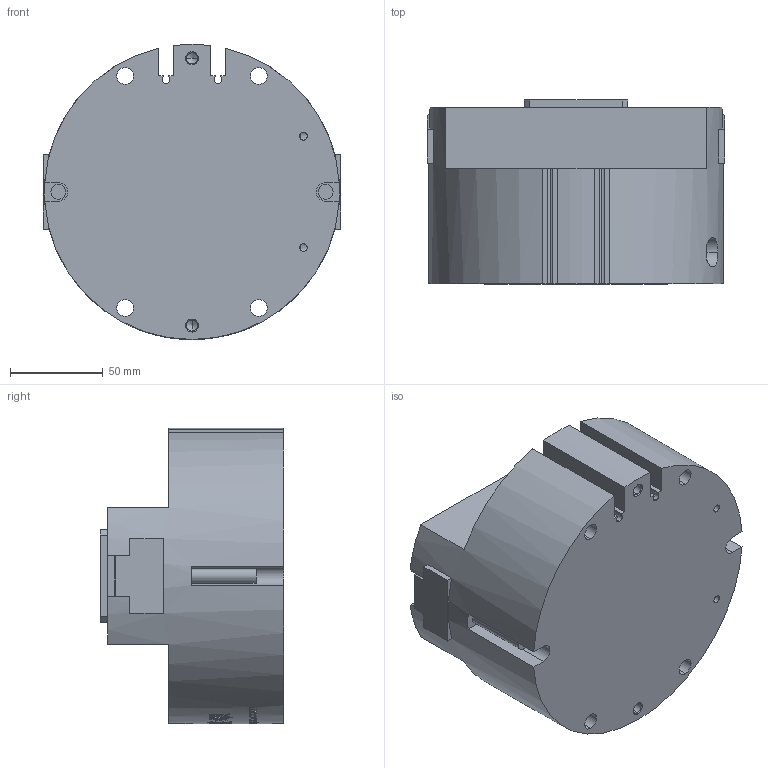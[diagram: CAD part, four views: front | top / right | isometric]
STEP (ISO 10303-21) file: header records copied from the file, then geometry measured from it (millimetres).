
FILE_DESCRIPTION (( 'STEP AP203' ), '1' );
FILE_NAME ('OPM-160-C1-原始檔-組合-W106.04.18.STEP', '2017-04-18T08:04:31', ( 'DanyaoCAD' ), ( '' ), 'SwSTEP 2.0', 'SolidWorks 2016', '' );
FILE_SCHEMA (( 'CONFIG_CONTROL_DESIGN' ));
Length unit declared in the file: millimetre
Products named in the file (3): Corpo; Griffa; OPM-160-C1-原始檔-組合-W106.04.18
Assembly tree (3 placements, depth 2):
  OPM-160-C1-原始檔-組合-W106.04.18
    Corpo
    Griffa  x2
Bounding box: 160 x 99 x 158.93 mm (x, y, z)
Volume: 1546542.5 mm3; surface area: 144407.8 mm2
Topology: 3 solids, 3 shells, 956 faces, 2680 edges, 1780 vertices
Faces by surface type: bspline 665, plane 179, cylinder 100, cone 12
Entity records: 109976 total; most frequent: CARTESIAN_POINT 91626, ORIENTED_EDGE 5200, EDGE_CURVE 2600, B_SPLINE_CURVE_WITH_KNOTS 2045, VERTEX_POINT 1730, DIRECTION 1260, EDGE_LOOP 990, ADVANCED_FACE 925
